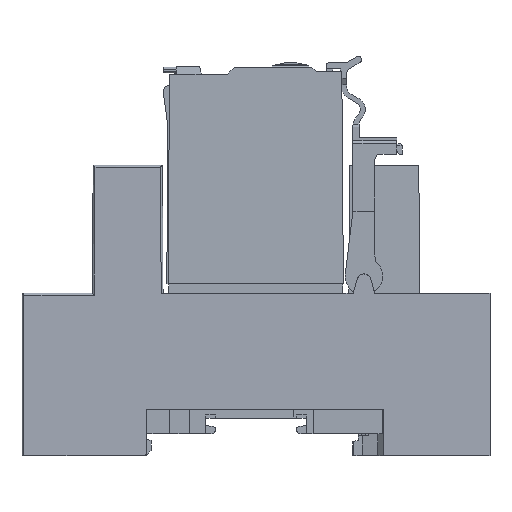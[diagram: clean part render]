
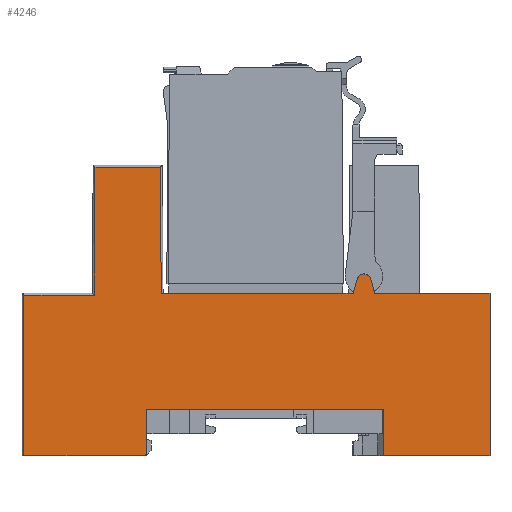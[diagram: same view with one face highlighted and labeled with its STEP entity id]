
A CAD part, left-side view. The second image highlights one B-rep face of the part: STEP entity #4246.
In plain terms, the highlighted planar face has unit normal (-1, 0, 0.004).
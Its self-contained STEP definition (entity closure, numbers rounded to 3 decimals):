
#485 = DIRECTION ( 'NONE',  ( 0., -1., 0. ) ) ;
#1063 = VERTEX_POINT ( 'NONE', #48674 ) ;
#1110 = CARTESIAN_POINT ( 'NONE',  ( 0., 0., 0. ) ) ;
#1516 = LINE ( 'NONE', #45226, #48882 ) ;
#1730 = CARTESIAN_POINT ( 'NONE',  ( 0.112, 18.451, 26.003 ) ) ;
#1834 = DIRECTION ( 'NONE',  ( 0., -1., 0. ) ) ;
#1877 = CARTESIAN_POINT ( 'NONE',  ( 0.198, 52.798, 46.102 ) ) ;
#2186 = EDGE_CURVE ( 'NONE', #49262, #33353, #15118, .T. ) ;
#2232 = ORIENTED_EDGE ( 'NONE', *, *, #30693, .F. ) ;
#2425 = EDGE_CURVE ( 'NONE', #1063, #31208, #8009, .T. ) ;
#2946 = CARTESIAN_POINT ( 'NONE',  ( 0.111, 74.7, 25.701 ) ) ;
#3303 = DIRECTION ( 'NONE',  ( 0.004, 0., 1. ) ) ;
#3542 = CARTESIAN_POINT ( 'NONE',  ( 0.112, 0., 26. ) ) ;
#3740 = VERTEX_POINT ( 'NONE', #48417 ) ;
#4048 = ORIENTED_EDGE ( 'NONE', *, *, #60917, .F. ) ;
#4246 = ADVANCED_FACE ( 'NONE', ( #49205 ), #9653, .F. ) ;
#4300 = LINE ( 'NONE', #23566, #28410 ) ;
#4319 = DIRECTION ( 'NONE',  ( 0., -1., 0. ) ) ;
#4931 = DIRECTION ( 'NONE',  ( 0., 1., 0. ) ) ;
#5254 = VERTEX_POINT ( 'NONE', #55883 ) ;
#5671 =( BOUNDED_CURVE ( )  B_SPLINE_CURVE ( 3, ( #43206, #29247, #43530, #23881 ),
 .UNSPECIFIED., .F., .F. ) 
 B_SPLINE_CURVE_WITH_KNOTS ( ( 4, 4 ),
 ( 1.863, 4.42 ),
 .UNSPECIFIED. ) 
 CURVE ( )  GEOMETRIC_REPRESENTATION_ITEM ( )  RATIONAL_B_SPLINE_CURVE ( ( 1., 0.525, 0.525, 1. ) ) 
 REPRESENTATION_ITEM ( '' )  );
#5827 = VERTEX_POINT ( 'NONE', #40707 ) ;
#5921 = EDGE_CURVE ( 'NONE', #5827, #49262, #7763, .T. ) ;
#6425 = CARTESIAN_POINT ( 'NONE',  ( 0.035, 27.3, 8.208 ) ) ;
#7311 = LINE ( 'NONE', #40578, #28582 ) ;
#7345 = VERTEX_POINT ( 'NONE', #58824 ) ;
#7763 = LINE ( 'NONE', #18218, #42105 ) ;
#8009 = LINE ( 'NONE', #3542, #11573 ) ;
#9015 = ORIENTED_EDGE ( 'NONE', *, *, #52607, .T. ) ;
#9312 = DIRECTION ( 'NONE',  ( 0.004, 0., 1. ) ) ;
#9653 = PLANE ( 'NONE',  #29390 ) ;
#9960 = CARTESIAN_POINT ( 'NONE',  ( 0.032, 17.082, 7.402 ) ) ;
#10039 = LINE ( 'NONE', #48628, #22549 ) ;
#10133 = CARTESIAN_POINT ( 'NONE',  ( 0.199, 52.799, 46.201 ) ) ;
#10612 = ORIENTED_EDGE ( 'NONE', *, *, #33173, .T. ) ;
#10662 = VECTOR ( 'NONE', #4319, 1000. ) ;
#10883 = DIRECTION ( 'NONE',  ( 0., -1., 0. ) ) ;
#11573 = VECTOR ( 'NONE', #42158, 1000. ) ;
#12852 = LINE ( 'NONE', #27345, #16704 ) ;
#13333 = ORIENTED_EDGE ( 'NONE', *, *, #5921, .F. ) ;
#13867 = CARTESIAN_POINT ( 'NONE',  ( 0.001, 55.1, 0.211 ) ) ;
#14079 = CARTESIAN_POINT ( 'NONE',  ( 0.032, 55.093, 7.402 ) ) ;
#14083 = CARTESIAN_POINT ( 'NONE',  ( 0.199, 63.301, 46.201 ) ) ;
#14200 = CARTESIAN_POINT ( 'NONE',  ( 0., 74.7, 0. ) ) ;
#14237 = ORIENTED_EDGE ( 'NONE', *, *, #49055, .T. ) ;
#15118 = LINE ( 'NONE', #1110, #52467 ) ;
#16058 = DIRECTION ( 'NONE',  ( 0.004, 0.288, 0.958 ) ) ;
#16521 = LINE ( 'NONE', #56349, #16663 ) ;
#16663 = VECTOR ( 'NONE', #17429, 1000. ) ;
#16704 = VECTOR ( 'NONE', #3303, 1000. ) ;
#17309 = ORIENTED_EDGE ( 'NONE', *, *, #30090, .F. ) ;
#17429 = DIRECTION ( 'NONE',  ( 0., 1., 0. ) ) ;
#18218 = CARTESIAN_POINT ( 'NONE',  ( 0.032, 55.218, 7.5 ) ) ;
#18573 = CARTESIAN_POINT ( 'NONE',  ( 0.199, 0., 46.201 ) ) ;
#18616 = VERTEX_POINT ( 'NONE', #22633 ) ;
#18879 = CARTESIAN_POINT ( 'NONE',  ( 0.112, 0., 26. ) ) ;
#19151 = CARTESIAN_POINT ( 'NONE',  ( 0., 55.25, 0. ) ) ;
#19785 = DIRECTION ( 'NONE',  ( 1., 0., -0.004 ) ) ;
#19864 = ORIENTED_EDGE ( 'NONE', *, *, #29840, .F. ) ;
#22303 = EDGE_CURVE ( 'NONE', #1063, #18616, #30789, .T. ) ;
#22549 = VECTOR ( 'NONE', #485, 1000. ) ;
#22605 = ORIENTED_EDGE ( 'NONE', *, *, #48107, .F. ) ;
#22633 = CARTESIAN_POINT ( 'NONE',  ( 0.122, 21.253, 28.317 ) ) ;
#23302 = VERTEX_POINT ( 'NONE', #32866 ) ;
#23566 = CARTESIAN_POINT ( 'NONE',  ( 0.111, 63.401, 25.701 ) ) ;
#23881 = CARTESIAN_POINT ( 'NONE',  ( 0.122, 21.253, 28.317 ) ) ;
#25140 = VECTOR ( 'NONE', #26364, 1000. ) ;
#25430 = VERTEX_POINT ( 'NONE', #29762 ) ;
#25585 = VECTOR ( 'NONE', #10883, 1000. ) ;
#25722 = ORIENTED_EDGE ( 'NONE', *, *, #2186, .F. ) ;
#26364 = DIRECTION ( 'NONE',  ( 0.004, -0.288, 0.958 ) ) ;
#26581 = DIRECTION ( 'NONE',  ( 0.004, 0.004, 1. ) ) ;
#27038 = LINE ( 'NONE', #41629, #35054 ) ;
#27345 = CARTESIAN_POINT ( 'NONE',  ( 0., 74.7, 0. ) ) ;
#28410 = VECTOR ( 'NONE', #62253, 1000. ) ;
#28567 = CARTESIAN_POINT ( 'NONE',  ( 0., 0., 0.001 ) ) ;
#28582 = VECTOR ( 'NONE', #26581, 1000. ) ;
#28855 = LINE ( 'NONE', #39009, #25585 ) ;
#29247 = CARTESIAN_POINT ( 'NONE',  ( 0.127, 19.532, 29.597 ) ) ;
#29390 = AXIS2_PLACEMENT_3D ( 'NONE', #29860, #19785, #59016 ) ;
#29762 = CARTESIAN_POINT ( 'NONE',  ( 0., 17.05, 0. ) ) ;
#29840 = EDGE_CURVE ( 'NONE', #25430, #31518, #7311, .T. ) ;
#29860 = CARTESIAN_POINT ( 'NONE',  ( 0., 0., 0. ) ) ;
#30090 = EDGE_CURVE ( 'NONE', #7345, #60164, #1516, .T. ) ;
#30693 = EDGE_CURVE ( 'NONE', #33353, #36331, #12852, .T. ) ;
#30789 = LINE ( 'NONE', #6425, #25140 ) ;
#31207 = EDGE_CURVE ( 'NONE', #42796, #25430, #16521, .T. ) ;
#31208 = VERTEX_POINT ( 'NONE', #35760 ) ;
#31518 = VERTEX_POINT ( 'NONE', #9960 ) ;
#32091 = DIRECTION ( 'NONE',  ( 0.004, -0.001, 1. ) ) ;
#32866 = CARTESIAN_POINT ( 'NONE',  ( 0.122, 19.147, 28.317 ) ) ;
#33173 = EDGE_CURVE ( 'NONE', #46205, #31518, #10039, .T. ) ;
#33353 = VERTEX_POINT ( 'NONE', #14200 ) ;
#33388 = LINE ( 'NONE', #18573, #10662 ) ;
#34791 = VECTOR ( 'NONE', #36907, 1000. ) ;
#35054 = VECTOR ( 'NONE', #32091, 1000. ) ;
#35760 = CARTESIAN_POINT ( 'NONE',  ( 0.112, 52.7, 26. ) ) ;
#36185 = ORIENTED_EDGE ( 'NONE', *, *, #47685, .T. ) ;
#36331 = VERTEX_POINT ( 'NONE', #2946 ) ;
#36907 = DIRECTION ( 'NONE',  ( 0., -1., 0. ) ) ;
#37483 = ORIENTED_EDGE ( 'NONE', *, *, #53401, .T. ) ;
#39009 = CARTESIAN_POINT ( 'NONE',  ( 0.111, 0., 25.701 ) ) ;
#39949 = EDGE_CURVE ( 'NONE', #54968, #31208, #55089, .T. ) ;
#40578 = CARTESIAN_POINT ( 'NONE',  ( 0., 17.05, 0. ) ) ;
#40707 = CARTESIAN_POINT ( 'NONE',  ( 0.001, 55.249, 0.211 ) ) ;
#40716 = EDGE_LOOP ( 'NONE', ( #17309, #37483, #51101, #54285, #41701, #46760, #22605, #4048, #47853, #2232, #25722, #13333, #36185, #14237, #10612, #19864, #58367, #9015 ) ) ;
#41629 = CARTESIAN_POINT ( 'NONE',  ( 0.029, 55.093, 6.754 ) ) ;
#41701 = ORIENTED_EDGE ( 'NONE', *, *, #2425, .T. ) ;
#42105 = VECTOR ( 'NONE', #52020, 1000. ) ;
#42158 = DIRECTION ( 'NONE',  ( 0., 1., 0. ) ) ;
#42796 = VERTEX_POINT ( 'NONE', #48848 ) ;
#43206 = CARTESIAN_POINT ( 'NONE',  ( 0.122, 19.147, 28.317 ) ) ;
#43530 = CARTESIAN_POINT ( 'NONE',  ( 0.127, 20.868, 29.597 ) ) ;
#45110 = LINE ( 'NONE', #1730, #52015 ) ;
#45226 = CARTESIAN_POINT ( 'NONE',  ( 0.112, 0., 26. ) ) ;
#46191 = VECTOR ( 'NONE', #50322, 1000. ) ;
#46205 = VERTEX_POINT ( 'NONE', #14079 ) ;
#46326 = EDGE_CURVE ( 'NONE', #36331, #3740, #28855, .T. ) ;
#46760 = ORIENTED_EDGE ( 'NONE', *, *, #39949, .F. ) ;
#47685 = EDGE_CURVE ( 'NONE', #5827, #5254, #56868, .T. ) ;
#47853 = ORIENTED_EDGE ( 'NONE', *, *, #46326, .F. ) ;
#48107 = EDGE_CURVE ( 'NONE', #52765, #54968, #33388, .T. ) ;
#48417 = CARTESIAN_POINT ( 'NONE',  ( 0.111, 63.401, 25.701 ) ) ;
#48628 = CARTESIAN_POINT ( 'NONE',  ( 0.032, 15.9, 7.402 ) ) ;
#48674 = CARTESIAN_POINT ( 'NONE',  ( 0.112, 21.95, 26. ) ) ;
#48848 = CARTESIAN_POINT ( 'NONE',  ( 0., 0., 0. ) ) ;
#48882 = VECTOR ( 'NONE', #1834, 1000. ) ;
#49055 = EDGE_CURVE ( 'NONE', #5254, #46205, #27038, .T. ) ;
#49205 = FACE_OUTER_BOUND ( 'NONE', #40716, .T. ) ;
#49262 = VERTEX_POINT ( 'NONE', #19151 ) ;
#50322 = DIRECTION ( 'NONE',  ( -0.004, -0.005, -1. ) ) ;
#51101 = ORIENTED_EDGE ( 'NONE', *, *, #60871, .T. ) ;
#52015 = VECTOR ( 'NONE', #16058, 1000. ) ;
#52020 = DIRECTION ( 'NONE',  ( -0.004, 0.004, -1. ) ) ;
#52467 = VECTOR ( 'NONE', #4931, 1000. ) ;
#52607 = EDGE_CURVE ( 'NONE', #42796, #60164, #52630, .T. ) ;
#52630 = LINE ( 'NONE', #28567, #56973 ) ;
#52765 = VERTEX_POINT ( 'NONE', #14083 ) ;
#53401 = EDGE_CURVE ( 'NONE', #7345, #23302, #45110, .T. ) ;
#54285 = ORIENTED_EDGE ( 'NONE', *, *, #22303, .F. ) ;
#54968 = VERTEX_POINT ( 'NONE', #10133 ) ;
#55089 = LINE ( 'NONE', #1877, #46191 ) ;
#55883 = CARTESIAN_POINT ( 'NONE',  ( 0.001, 55.1, 0.211 ) ) ;
#56349 = CARTESIAN_POINT ( 'NONE',  ( 0., 0., 0. ) ) ;
#56868 = LINE ( 'NONE', #13867, #34791 ) ;
#56973 = VECTOR ( 'NONE', #9312, 1000. ) ;
#58367 = ORIENTED_EDGE ( 'NONE', *, *, #31207, .F. ) ;
#58824 = CARTESIAN_POINT ( 'NONE',  ( 0.112, 18.45, 26. ) ) ;
#59016 = DIRECTION ( 'NONE',  ( 0.004, 0., 1. ) ) ;
#60164 = VERTEX_POINT ( 'NONE', #18879 ) ;
#60871 = EDGE_CURVE ( 'NONE', #23302, #18616, #5671, .T. ) ;
#60917 = EDGE_CURVE ( 'NONE', #3740, #52765, #4300, .T. ) ;
#62253 = DIRECTION ( 'NONE',  ( 0.004, -0.005, 1. ) ) ;
